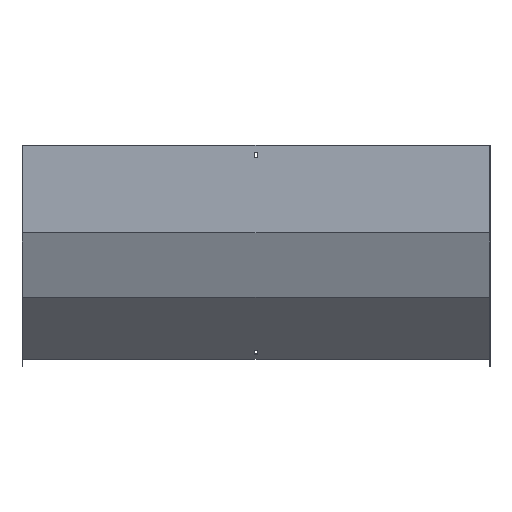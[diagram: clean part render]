
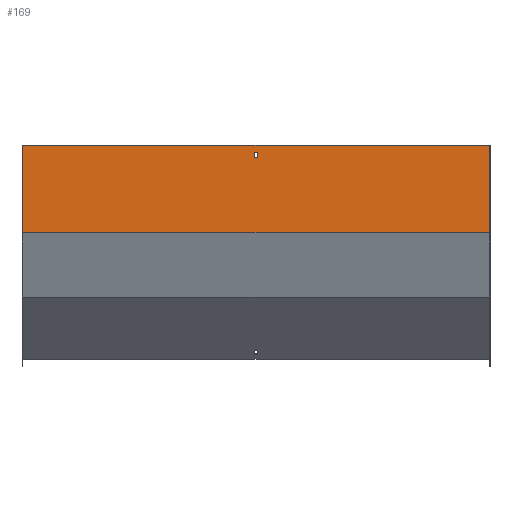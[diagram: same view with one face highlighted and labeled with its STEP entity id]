
A CAD part, front view. The second image highlights one B-rep face of the part: STEP entity #169.
In plain terms, the highlighted planar face has unit normal (0, -1, 0).
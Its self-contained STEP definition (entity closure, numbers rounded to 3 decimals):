
#35 = LINE ( 'NONE', #310, #769 ) ;
#62 = ORIENTED_EDGE ( 'NONE', *, *, #721, .F. ) ;
#74 = ORIENTED_EDGE ( 'NONE', *, *, #572, .F. ) ;
#82 = LINE ( 'NONE', #809, #761 ) ;
#84 = DIRECTION ( 'NONE',  ( 0., 1., 0. ) ) ;
#99 = CARTESIAN_POINT ( 'NONE',  ( 3.25, -1.5, 0. ) ) ;
#123 = EDGE_LOOP ( 'NONE', ( #141, #286, #696, #74 ) ) ;
#141 = ORIENTED_EDGE ( 'NONE', *, *, #679, .F. ) ;
#143 = VECTOR ( 'NONE', #344, 1000. ) ;
#169 = ADVANCED_FACE ( 'NONE', ( #805, #346 ), #211, .F. ) ;
#175 = DIRECTION ( 'NONE',  ( -1., 0., 0. ) ) ;
#184 = CARTESIAN_POINT ( 'NONE',  ( 401.5, -1.5, -21. ) ) ;
#192 = AXIS2_PLACEMENT_3D ( 'NONE', #606, #84, #490 ) ;
#195 = VERTEX_POINT ( 'NONE', #252 ) ;
#211 = PLANE ( 'NONE',  #192 ) ;
#212 = VERTEX_POINT ( 'NONE', #837 ) ;
#227 = ORIENTED_EDGE ( 'NONE', *, *, #754, .T. ) ;
#252 = CARTESIAN_POINT ( 'NONE',  ( 400., -1.5, 0. ) ) ;
#258 = CARTESIAN_POINT ( 'NONE',  ( 400., -1.5, -150.098 ) ) ;
#285 = EDGE_CURVE ( 'NONE', #819, #423, #388, .T. ) ;
#286 = ORIENTED_EDGE ( 'NONE', *, *, #285, .F. ) ;
#298 = DIRECTION ( 'NONE',  ( 0., 0., -1. ) ) ;
#303 = VECTOR ( 'NONE', #298, 1000. ) ;
#310 = CARTESIAN_POINT ( 'NONE',  ( 401.5, -1.5, -12. ) ) ;
#330 = EDGE_CURVE ( 'NONE', #212, #448, #830, .T. ) ;
#344 = DIRECTION ( 'NONE',  ( 0., 0., -1. ) ) ;
#346 = FACE_BOUND ( 'NONE', #123, .T. ) ;
#348 = CARTESIAN_POINT ( 'NONE',  ( 3.25, -1.5, -21. ) ) ;
#357 = DIRECTION ( 'NONE',  ( -1., 0., 0. ) ) ;
#365 = DIRECTION ( 'NONE',  ( -1., 0., 0. ) ) ;
#388 = LINE ( 'NONE', #184, #416 ) ;
#394 = EDGE_CURVE ( 'NONE', #540, #819, #403, .T. ) ;
#403 = LINE ( 'NONE', #668, #143 ) ;
#416 = VECTOR ( 'NONE', #526, 1000. ) ;
#423 = VERTEX_POINT ( 'NONE', #348 ) ;
#425 = LINE ( 'NONE', #430, #734 ) ;
#428 = CARTESIAN_POINT ( 'NONE',  ( 401.5, -1.5, -150.098 ) ) ;
#430 = CARTESIAN_POINT ( 'NONE',  ( 400., -1.5, 0. ) ) ;
#434 = DIRECTION ( 'NONE',  ( 0., 0., 1. ) ) ;
#448 = VERTEX_POINT ( 'NONE', #798 ) ;
#490 = DIRECTION ( 'NONE',  ( 0., 0., 1. ) ) ;
#515 = CARTESIAN_POINT ( 'NONE',  ( -3.25, -1.5, -12. ) ) ;
#526 = DIRECTION ( 'NONE',  ( 1., 0., 0. ) ) ;
#540 = VERTEX_POINT ( 'NONE', #515 ) ;
#572 = EDGE_CURVE ( 'NONE', #598, #540, #35, .T. ) ;
#587 = EDGE_LOOP ( 'NONE', ( #781, #62, #850, #227 ) ) ;
#598 = VERTEX_POINT ( 'NONE', #842 ) ;
#606 = CARTESIAN_POINT ( 'NONE',  ( 401.5, -1.5, 0. ) ) ;
#633 = VECTOR ( 'NONE', #434, 1000. ) ;
#635 = VERTEX_POINT ( 'NONE', #258 ) ;
#642 = CARTESIAN_POINT ( 'NONE',  ( -400., -1.5, 0. ) ) ;
#668 = CARTESIAN_POINT ( 'NONE',  ( -3.25, -1.5, 0. ) ) ;
#679 = EDGE_CURVE ( 'NONE', #423, #598, #756, .T. ) ;
#689 = DIRECTION ( 'NONE',  ( 0., 0., -1. ) ) ;
#696 = ORIENTED_EDGE ( 'NONE', *, *, #394, .F. ) ;
#721 = EDGE_CURVE ( 'NONE', #635, #448, #751, .T. ) ;
#734 = VECTOR ( 'NONE', #689, 1000. ) ;
#751 = LINE ( 'NONE', #428, #799 ) ;
#753 = CARTESIAN_POINT ( 'NONE',  ( -3.25, -1.5, -21. ) ) ;
#754 = EDGE_CURVE ( 'NONE', #195, #212, #82, .T. ) ;
#756 = LINE ( 'NONE', #99, #633 ) ;
#761 = VECTOR ( 'NONE', #357, 1000. ) ;
#769 = VECTOR ( 'NONE', #175, 1000. ) ;
#781 = ORIENTED_EDGE ( 'NONE', *, *, #330, .T. ) ;
#798 = CARTESIAN_POINT ( 'NONE',  ( -400., -1.5, -150.098 ) ) ;
#799 = VECTOR ( 'NONE', #365, 1000. ) ;
#805 = FACE_OUTER_BOUND ( 'NONE', #587, .T. ) ;
#809 = CARTESIAN_POINT ( 'NONE',  ( 401.5, -1.5, 0. ) ) ;
#819 = VERTEX_POINT ( 'NONE', #753 ) ;
#820 = EDGE_CURVE ( 'NONE', #195, #635, #425, .T. ) ;
#830 = LINE ( 'NONE', #642, #303 ) ;
#837 = CARTESIAN_POINT ( 'NONE',  ( -400., -1.5, 0. ) ) ;
#842 = CARTESIAN_POINT ( 'NONE',  ( 3.25, -1.5, -12. ) ) ;
#850 = ORIENTED_EDGE ( 'NONE', *, *, #820, .F. ) ;
